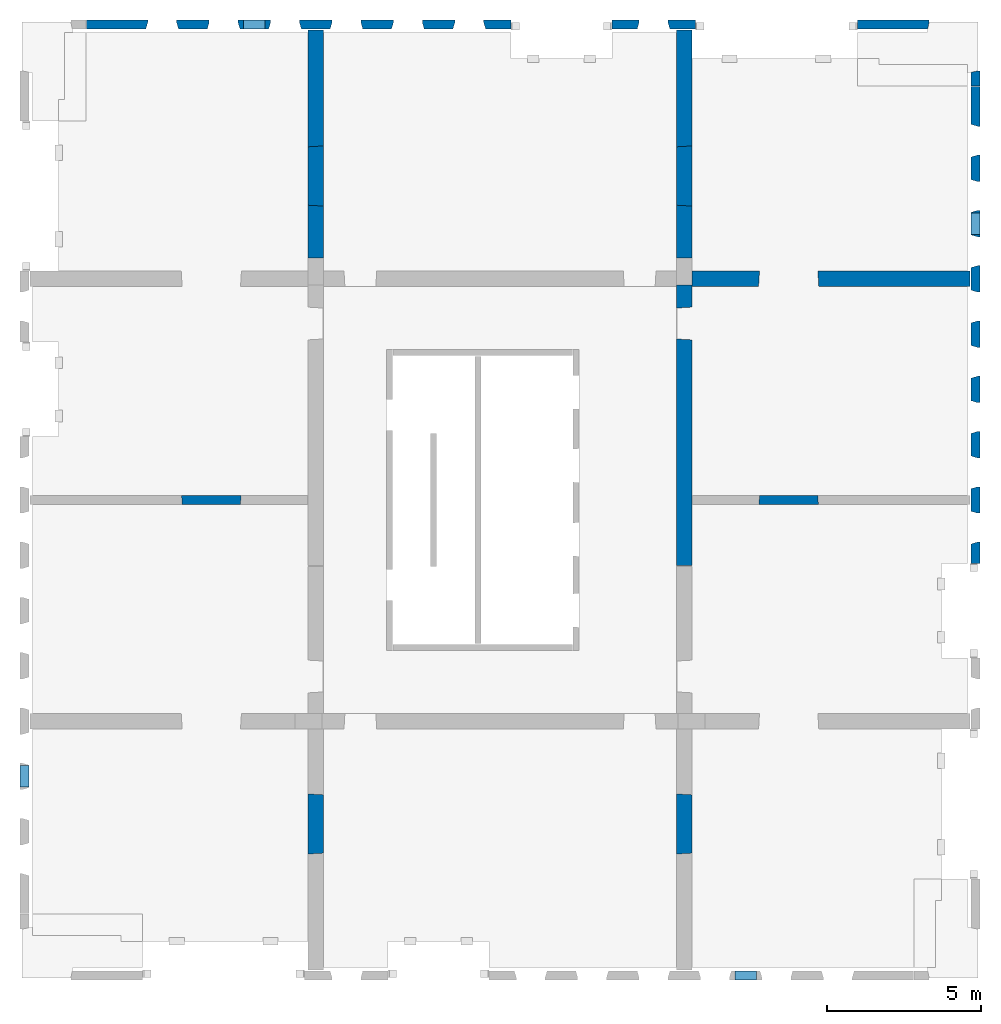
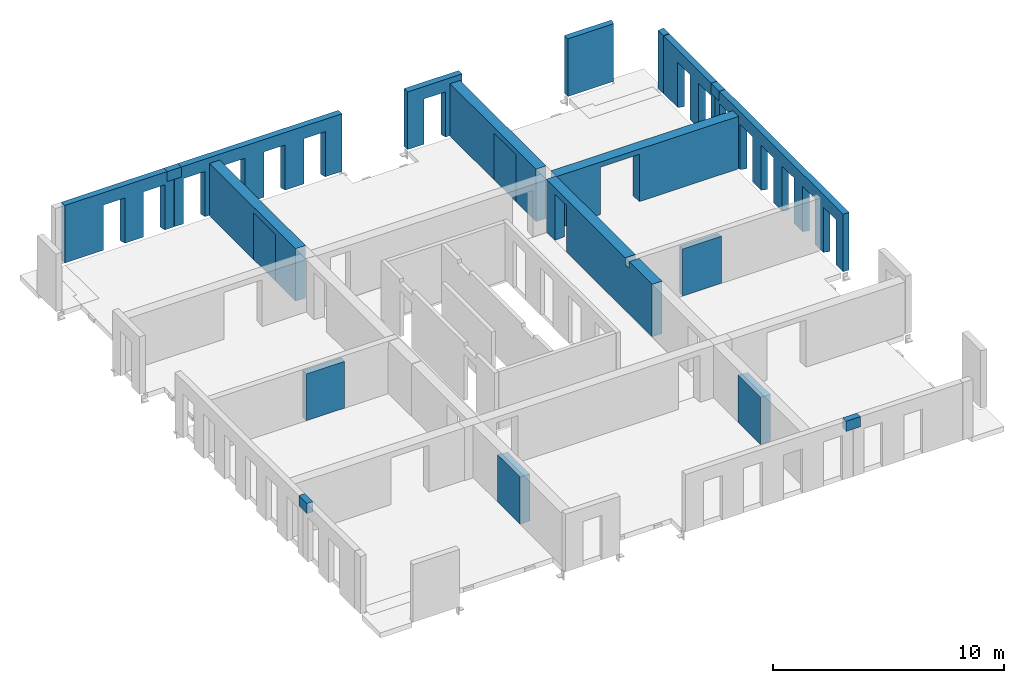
# One storey, part 4 of 4: 21 walls, 26 openings.
"""IFC2X3 building model written with IfcOpenShell, lengths in millimetres."""

import ifcopenshell
import ifcopenshell.guid

model = None  # the IFC model being written
_history = None  # IfcOwnerHistory: only IFC2X3 demands one
_inside = {}  # id of a spatial element -> (the spatial element, [elements in it])
_under = {}  # id of a project, library or spatial element -> (it, [spatial elements below it])
_declared = {}  # id of a project -> (the project, [libraries it declares])
_typed = {}  # id of a type object -> (the type object, [elements of that type])
_made_of = {}  # id of a material, layer set ... -> (it, [elements and type objects made of it])


def new_model(schema):
    """Start an empty IFC model of exactly this schema.

    Asked for "IFC4X3", IfcOpenShell would pick the latest addendum, in which some entities
    have other attributes; the version numbers below select the first issue.
    IFC2X3 requires an IfcOwnerHistory on every rooted entity: one is made here for all.
    """
    global model, _history
    if schema == "IFC4X3":
        model = ifcopenshell.file(schema_version=(4, 3, 0, 0))
    else:
        model = ifcopenshell.file(schema=schema)
    _inside.clear()
    _under.clear()
    _declared.clear()
    _typed.clear()
    _made_of.clear()
    _history = None
    if model.schema == "IFC2X3":
        org = make("IfcOrganization", Name="unknown")
        user = make(
            "IfcPersonAndOrganization",
            ThePerson=make("IfcPerson", FamilyName="unknown"),
            TheOrganization=org,
        )
        app = make(
            "IfcApplication",
            ApplicationDeveloper=org,
            Version="unknown",
            ApplicationFullName="unknown",
            ApplicationIdentifier="unknown",
        )
        _history = make(
            "IfcOwnerHistory",
            OwningUser=user,
            OwningApplication=app,
            ChangeAction="ADDED",
            CreationDate=0,
        )
    return model


def make(cls, **values):
    """One entity of the class cls with the attributes given. An attribute that is None is left unset."""
    return model.create_entity(
        cls, **{name: value for name, value in values.items() if value is not None}
    )


def entity(cls, *values):
    """Any entity or typed value of the class cls, its attributes in the order of the schema. None: left unset."""
    e = model.create_entity(cls)
    for i, value in enumerate(values):
        if value is not None:
            e[i] = value
    return e


def rooted(cls, **values):
    """An entity with a GlobalId (a new one), such as an element, a storey or a relation."""
    return make(cls, GlobalId=ifcopenshell.guid.new(), OwnerHistory=_history, **values)


def si_unit(unit_type, name, prefix=None):
    """IfcSIUnit, for example si_unit("LENGTHUNIT", "METRE", prefix="MILLI")."""
    return make("IfcSIUnit", UnitType=unit_type, Prefix=prefix, Name=name)


def converted_unit(unit_type, name, factor, base, dimensions=None, offset=None):
    """IfcConversionBasedUnit, such as the inch: factor (a typed value) times the base unit."""
    return make(
        "IfcConversionBasedUnit"
        if offset is None
        else "IfcConversionBasedUnitWithOffset",
        ConversionOffset=offset,
        Dimensions=None
        if dimensions is None
        else entity("IfcDimensionalExponents", *dimensions),
        UnitType=unit_type,
        Name=name,
        ConversionFactor=make(
            "IfcMeasureWithUnit", ValueComponent=factor, UnitComponent=base
        ),
    )


def derived_unit(unit_type, elements):
    """IfcDerivedUnit: a product of units, each with its exponent."""
    return make(
        "IfcDerivedUnit",
        Elements=[
            make("IfcDerivedUnitElement", Unit=unit, Exponent=power)
            for unit, power in elements
        ],
        UnitType=unit_type,
    )


def assignment(units):
    """IfcUnitAssignment: the units of a project."""
    return None if units is None else make("IfcUnitAssignment", Units=units)


def point(xyz):
    """IfcCartesianPoint."""
    return None if xyz is None else make("IfcCartesianPoint", Coordinates=xyz)


def direction(xyz):
    """IfcDirection."""
    return None if xyz is None else make("IfcDirection", DirectionRatios=xyz)


def frame(location, z_axis=None, x_axis=None):
    """IfcAxis2Placement3D, a coordinate frame: its origin and axes. An axis left out is left unset."""
    return make(
        "IfcAxis2Placement3D",
        Location=point(location),
        Axis=direction(z_axis),
        RefDirection=direction(x_axis),
    )


def frame_2d(location, x_axis=None):
    """IfcAxis2Placement2D, a coordinate frame in the plane: its origin and x axis."""
    return make(
        "IfcAxis2Placement2D", Location=point(location), RefDirection=direction(x_axis)
    )


def origin():
    """The frame at (0, 0, 0) with its axes left unset."""
    return frame((0.0, 0.0, 0.0))


def place(relative_to, where):
    """IfcLocalPlacement: puts the frame where relative to a parent placement (None: the world)."""
    return make(
        "IfcLocalPlacement", PlacementRelTo=relative_to, RelativePlacement=where
    )


def context(
    kind, dimensions, precision=None, world=None, true_north=None, identifier=None
):
    """IfcGeometricRepresentationContext, for example the 3D "Model" context."""
    return make(
        "IfcGeometricRepresentationContext",
        ContextIdentifier=identifier,
        ContextType=kind,
        CoordinateSpaceDimension=dimensions,
        Precision=precision,
        WorldCoordinateSystem=world,
        TrueNorth=true_north,
    )


def subcontext(parent, identifier, kind, view, scale=None):
    """IfcGeometricRepresentationSubContext, for example "Body" below "Model"."""
    return make(
        "IfcGeometricRepresentationSubContext",
        ContextIdentifier=identifier,
        ContextType=kind,
        ParentContext=parent,
        TargetScale=scale,
        TargetView=view,
    )


def project(units=None, contexts=None):
    """IfcProject with its units and contexts."""
    return rooted(
        "IfcProject",
        Name="project",
        RepresentationContexts=contexts,
        UnitsInContext=assignment(units),
    )


def spatial(cls, under=None, at=None, **own):
    """A site, building, storey or space (cls), placed at a placement, below another one or the project."""
    s = rooted(cls, ObjectPlacement=at, **own)
    if under is not None:
        _under.setdefault(under.id(), (under, []))[1].append(s)
    return s


def profile(cls, at=None, kind="AREA", **sizes):
    """A parametric profile (cls). Its sizes go by their IFC names, for example OverallWidth=200.0."""
    return make(cls, ProfileType=kind, Position=at, **sizes)


def rectangle(**sizes):
    """IfcRectangleProfileDef."""
    return profile("IfcRectangleProfileDef", **sizes)


def extrude(swept, where, along, depth):
    """IfcExtrudedAreaSolid: the profile swept, set in the frame where, extruded along a direction by depth."""
    return make(
        "IfcExtrudedAreaSolid",
        SweptArea=swept,
        Position=where,
        ExtrudedDirection=direction(along),
        Depth=depth,
    )


def faces_of(points, faces, orient=None, outer=None):
    """IfcFace entities. A face is a list of loops; a loop is a list of indices into points, from 0.

    orient and outer hold one flag for each loop. By default every Orientation is true, the
    first loop of a face is its IfcFaceOuterBound and the others are IfcFaceBound.
    """
    made = []
    for i, loops in enumerate(faces):
        bounds = []
        for j, loop in enumerate(loops):
            is_outer = j == 0 if outer is None else outer[i][j]
            bounds.append(
                make(
                    "IfcFaceOuterBound" if is_outer else "IfcFaceBound",
                    Bound=make("IfcPolyLoop", Polygon=[points[k] for k in loop]),
                    Orientation=True if orient is None else orient[i][j],
                )
            )
        made.append(make("IfcFace", Bounds=bounds))
    return made


def faceted_brep(points, faces, orient=None, outer=None, voids=None):
    """IfcFacetedBrep: a solid bounded by flat faces; with voids (closed shells), ...WithVoids."""
    shared = [point(p) for p in points]
    hull = make("IfcClosedShell", CfsFaces=faces_of(shared, faces, orient, outer))
    if voids is None:
        return make("IfcFacetedBrep", Outer=hull)
    return make(
        "IfcFacetedBrepWithVoids",
        Outer=hull,
        Voids=[
            make(cls, CfsFaces=faces_of(shared, fs, o, b)) for cls, fs, o, b in voids
        ],
    )


def shape(context_of_items, identifier, shape_type, items):
    """IfcShapeRepresentation: the items that make up one representation, for example the "Body"."""
    return make(
        "IfcShapeRepresentation",
        ContextOfItems=context_of_items,
        RepresentationIdentifier=identifier,
        RepresentationType=shape_type,
        Items=items,
    )


def material(Name=None, Category=None):
    """IfcMaterial."""
    return make("IfcMaterial", Name=Name, Category=Category)


def layer(
    of_material, thickness, ventilated=None, Name=None, Category=None, Priority=None
):
    """IfcMaterialLayer: one layer of a wall or slab, of a material (None: an air gap)."""
    return make(
        "IfcMaterialLayer",
        Material=of_material,
        LayerThickness=thickness,
        IsVentilated=ventilated,
        Name=Name,
        Category=Category,
        Priority=Priority,
    )


def layer_set(layers, Name=None):
    """IfcMaterialLayerSet."""
    return make("IfcMaterialLayerSet", MaterialLayers=layers, LayerSetName=Name)


def layer_usage(for_layer_set, set_direction, sense, offset, extent=None):
    """IfcMaterialLayerSetUsage: how a layer set lies in its element."""
    return make(
        "IfcMaterialLayerSetUsage",
        ForLayerSet=for_layer_set,
        LayerSetDirection=set_direction,
        DirectionSense=sense,
        OffsetFromReferenceLine=offset,
        ReferenceExtent=extent,
    )


def made_of(thing, what):
    """Note that an element or type object is made of a material, layer set ...; save() writes the relation."""
    if what is not None:
        _made_of.setdefault(what.id(), (what, []))[1].append(thing)
    return thing


def type_object(cls, material=None, **own):
    """A type object (cls), such as IfcWallType, which elements share."""
    return made_of(rooted(cls, **own), material)


def element(
    cls,
    number,
    at=None,
    inside=None,
    cuts=None,
    type_object=None,
    material=None,
    context=None,
    identifier="Body",
    shape_type=None,
    held_by="IfcProductDefinitionShape",
    body=None,
    shapes=None,
    **own,
):
    """One element of the class cls, such as IfcWall. Its Tag is "e" and its number.

    at: its placement. inside: the storey or other place that contains it. cuts: it is an
    opening in that element (IfcRelVoidsElement). A single representation is given by context,
    identifier, shape_type and body (its items); several are given by shapes. held_by: the class
    of the entity that holds the representations. save() writes the other relations.
    """
    e = rooted(cls, Tag="e%d" % number, ObjectPlacement=at, **own)
    if body is not None:
        shapes = [shape(context, identifier, shape_type, body)]
    if shapes is not None:
        e.Representation = make(held_by, Representations=shapes)
    if inside is not None:
        _inside.setdefault(inside.id(), (inside, []))[1].append(e)
    if cuts is not None:
        rooted(
            "IfcRelVoidsElement", RelatingBuildingElement=cuts, RelatedOpeningElement=e
        )
    if type_object is not None:
        _typed.setdefault(type_object.id(), (type_object, []))[1].append(e)
    return made_of(e, material)


def aggregate(whole, parts):
    """IfcRelAggregates: a whole, such as a stair, and the parts it consists of."""
    return rooted("IfcRelAggregates", RelatingObject=whole, RelatedObjects=parts)


def save(model, path):
    """Write the relations noted so far, then the file.

    IfcRelAggregates (storeys below a building ...), IfcRelContainedInSpatialStructure (elements
    in a storey), IfcRelDefinesByType, IfcRelAssociatesMaterial and IfcRelDeclares: one each for
    every whole, place, type object, material and project.
    """
    for whole, parts in _under.values():
        aggregate(whole, parts)
    for where, things in _inside.values():
        rooted(
            "IfcRelContainedInSpatialStructure",
            RelatedElements=things,
            RelatingStructure=where,
        )
    for kind, things in _typed.values():
        rooted("IfcRelDefinesByType", RelatedObjects=things, RelatingType=kind)
    for what, things in _made_of.values():
        rooted("IfcRelAssociatesMaterial", RelatedObjects=things, RelatingMaterial=what)
    for by, libraries in _declared.values():
        rooted("IfcRelDeclares", RelatingContext=by, RelatedDefinitions=libraries)
    model.write(path)


model = new_model("IFC2X3")

# Units and contexts
model_context = context("Model", 3, precision=0.01, world=origin(), true_north=direction((6.12303176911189e-17, 1.0)))
body_context = subcontext(model_context, "Body", "Model", "MODEL_VIEW")
ifc_project = project(units=[si_unit("LENGTHUNIT", "METRE", prefix="MILLI"), si_unit("AREAUNIT", "SQUARE_METRE"), si_unit("VOLUMEUNIT", "CUBIC_METRE"), converted_unit("PLANEANGLEUNIT", "DEGREE", entity("IfcRatioMeasure", 0.0174532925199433), si_unit("PLANEANGLEUNIT", "RADIAN"), dimensions=[0, 0, 0, 0, 0, 0, 0]), si_unit("MASSUNIT", "GRAM", prefix="KILO"), derived_unit("MASSDENSITYUNIT", [(si_unit("MASSUNIT", "GRAM", prefix="KILO"), 1), (si_unit("LENGTHUNIT", "METRE"), -3)]), si_unit("TIMEUNIT", "SECOND"), si_unit("FREQUENCYUNIT", "HERTZ"), si_unit("THERMODYNAMICTEMPERATUREUNIT", "DEGREE_CELSIUS"), derived_unit("THERMALTRANSMITTANCEUNIT", [(si_unit("MASSUNIT", "GRAM", prefix="KILO"), 1), (si_unit("THERMODYNAMICTEMPERATUREUNIT", "KELVIN"), -1), (si_unit("TIMEUNIT", "SECOND"), -3)]), derived_unit("VOLUMETRICFLOWRATEUNIT", [(si_unit("LENGTHUNIT", "METRE"), 3), (si_unit("TIMEUNIT", "SECOND"), -1)]), si_unit("ELECTRICCURRENTUNIT", "AMPERE"), si_unit("ELECTRICVOLTAGEUNIT", "VOLT"), si_unit("POWERUNIT", "WATT"), si_unit("FORCEUNIT", "NEWTON", prefix="KILO"), si_unit("ILLUMINANCEUNIT", "LUX"), si_unit("LUMINOUSFLUXUNIT", "LUMEN"), si_unit("LUMINOUSINTENSITYUNIT", "CANDELA"), derived_unit("USERDEFINED", [(si_unit("MASSUNIT", "GRAM", prefix="KILO"), -1), (si_unit("LENGTHUNIT", "METRE"), -2), (si_unit("TIMEUNIT", "SECOND"), 3), (si_unit("LUMINOUSFLUXUNIT", "LUMEN"), 1)]), derived_unit("LINEARVELOCITYUNIT", [(si_unit("LENGTHUNIT", "METRE"), 1), (si_unit("TIMEUNIT", "SECOND"), -1)]), si_unit("PRESSUREUNIT", "PASCAL"), derived_unit("USERDEFINED", [(si_unit("LENGTHUNIT", "METRE"), -2), (si_unit("MASSUNIT", "GRAM", prefix="KILO"), 1), (si_unit("TIMEUNIT", "SECOND"), -2)])], contexts=[model_context])

# Site, building, storey
site_placement = place(None, origin())
site = spatial("IfcSite", under=ifc_project, at=site_placement, Name="Default", CompositionType="ELEMENT")
building_placement = place(site_placement, origin())
building = spatial("IfcBuilding", under=site, at=building_placement, Name="niet gebruiken", CompositionType="ELEMENT")
storey_placement = place(building_placement, frame((0.0, 0.0, 30240.0)))
storey = spatial("IfcBuildingStorey", under=building, at=storey_placement, Name="09 negende verdieping", CompositionType="ELEMENT", Elevation=30240.0)

# Walls
ifc_material_1 = material(Name="NLRS_f2_beton ihwg")
ifc_layer_1 = layer(ifc_material_1, 300.0)
ifc_layer_set_1 = layer_set([ifc_layer_1], Name="Basic Wall:NLRS_21.21_WA_beton ihwg d=300_gen")
ifc_layer_usage_1 = layer_usage(ifc_layer_set_1, "AXIS2", "NEGATIVE", 150.0)
wall_type_1 = type_object("IfcWallType", Name="Basic Wall:NLRS_21.21_WA_beton ihwg d=300_gen", PredefinedType="STANDARD", material=ifc_layer_set_1)
wall_1_placement = place(storey_placement, frame((133395.0, 32980.0, 2455.0)))
element("IfcWallStandardCase", 1, at=wall_1_placement, inside=storey, type_object=wall_type_1, material=ifc_layer_usage_1, Name="Basic Wall:NLRS_21.21_WA_beton ihwg d=300_gen", ObjectType="Basic Wall:NLRS_21.21_WA_beton ihwg d=300_gen", context=body_context, shape_type="SweptSolid", body=[
    extrude(rectangle(XDim=710.000000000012, YDim=300.000000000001, at=frame_2d((355.000000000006, 0.0), x_axis=(-1.0, 0.0))), origin(), (0.0, 0.0, 1.0), 535.0),
])
ifc_layer_usage_2 = layer_usage(ifc_layer_set_1, "AXIS2", "NEGATIVE", 150.0)
wall_2_placement = place(storey_placement, frame((150105.0, 2020.0, 2455.0), z_axis=(0.0, 0.0, 1.0), x_axis=(-1.0, 0.0, 0.0)))
element("IfcWallStandardCase", 2, at=wall_2_placement, inside=storey, type_object=wall_type_1, material=ifc_layer_usage_2, Name="Basic Wall:NLRS_21.21_WA_beton ihwg d=300_gen", ObjectType="Basic Wall:NLRS_21.21_WA_beton ihwg d=300_gen", context=body_context, shape_type="SweptSolid", body=[
    extrude(rectangle(XDim=710.000000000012, YDim=300.0, at=frame_2d((355.000000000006, -1.4210854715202e-14), x_axis=(-1.0, 0.0))), origin(), (0.0, 0.0, 1.0), 535.0),
])
ifc_layer_usage_3 = layer_usage(ifc_layer_set_1, "AXIS2", "NEGATIVE", 150.0)
wall_3_placement = place(storey_placement, frame((126270.0, 8155.0, 2455.0), z_axis=(0.0, 0.0, 1.0), x_axis=(0.0, 1.0, 0.0)))
element("IfcWallStandardCase", 3, at=wall_3_placement, inside=storey, type_object=wall_type_1, material=ifc_layer_usage_3, Name="Basic Wall:NLRS_21.21_WA_beton ihwg d=300_gen", ObjectType="Basic Wall:NLRS_21.21_WA_beton ihwg d=300_gen", context=body_context, shape_type="SweptSolid", body=[
    extrude(rectangle(XDim=700.0, YDim=300.000000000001, at=frame_2d((350.0, 0.0), x_axis=(-1.0, 0.0))), origin(), (0.0, 0.0, 1.0), 535.0),
])
ifc_layer_usage_4 = layer_usage(ifc_layer_set_1, "AXIS2", "NEGATIVE", 150.0)
wall_4_placement = place(storey_placement, frame((157230.0, 26845.0, 2455.0), z_axis=(0.0, 0.0, 1.0), x_axis=(0.0, -1.0, 0.0)))
element("IfcWallStandardCase", 4, at=wall_4_placement, inside=storey, type_object=wall_type_1, material=ifc_layer_usage_4, Name="Basic Wall:NLRS_21.21_WA_beton ihwg d=300_gen", ObjectType="Basic Wall:NLRS_21.21_WA_beton ihwg d=300_gen", context=body_context, shape_type="SweptSolid", body=[
    extrude(rectangle(XDim=700.000000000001, YDim=300.000000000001, at=frame_2d((350.000000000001, 9.80548975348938e-13), x_axis=(-1.0, 0.0))), origin(), (0.0, 0.0, 1.0), 535.0),
])

# Wall, opening
ifc_material_2 = material(Name="NLRS_f2_beton prefab")
ifc_layer_2 = layer(ifc_material_2, 500.0)
ifc_layer_set_2 = layer_set([ifc_layer_2], Name="Basic Wall:NLRS_22.21_WA_beton prefab d=500_gen")
ifc_layer_usage_5 = layer_usage(ifc_layer_set_2, "AXIS2", "NEGATIVE", 250.0)
wall_type_2 = type_object("IfcWallType", Name="Basic Wall:NLRS_22.21_WA_beton prefab d=500_gen", PredefinedType="STANDARD", material=ifc_layer_set_2)
wall_5_placement = place(storey_placement, frame((157060.0, 24700.0, -70.0), z_axis=(0.0, 0.0, 1.0), x_axis=(-1.0, 0.0, 0.0)))
wall_5 = element("IfcWallStandardCase", 5, at=wall_5_placement, inside=storey, type_object=wall_type_2, material=ifc_layer_usage_5, Name="Basic Wall:NLRS_22.21_WA_beton prefab d=500_gen", ObjectType="Basic Wall:NLRS_22.21_WA_beton prefab d=500_gen", context=body_context, shape_type="SweptSolid", body=[
    extrude(rectangle(XDim=9060.00000000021, YDim=499.999999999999, at=frame_2d((4530.00000000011, -1.37845290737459e-12), x_axis=(-1.0, 0.0))), origin(), (0.0, 0.0, 1.0), 2770.0),
])
opening_1_placement = place(wall_5_placement, frame((6890.0, 250.0, 0.0)))
element("IfcOpeningElement", 6, at=opening_1_placement, cuts=wall_5, Name="Basic Wall:NLRS_22.21_WA_beton prefab d=500_gen", ObjectType="Opening", context=body_context, shape_type="Brep", body=[
    faceted_brep([(-30.0, -500.0, 2470.0), (-1930.0, -500.0, 2470.0), (-1930.0, -500.0, 0.0), (-30.0, -500.0, 0.0), (0.0, 0.0, 2500.0), (0.0, 0.0, 0.0), (-1960.0, 0.0, 0.0), (-1960.0, 0.0, 2500.0)], [[[0, 1, 2, 3]], [[4, 5, 6, 7]], [[4, 7, 1, 0]], [[7, 6, 2, 1]], [[6, 5, 3, 2]], [[5, 4, 0, 3]]]),
])

ifc_layer_usage_6 = layer_usage(ifc_layer_set_2, "AXIS2", "NEGATIVE", 250.0)
wall_6_placement = place(storey_placement, frame((135750.0, 25380.0, -70.0), z_axis=(0.0, 0.0, 1.0), x_axis=(0.0, 1.0, 0.0)))
wall_6 = element("IfcWallStandardCase", 7, at=wall_6_placement, inside=storey, type_object=wall_type_2, material=ifc_layer_usage_6, Name="Basic Wall:NLRS_22.21_WA_beton prefab d=500_gen", ObjectType="Basic Wall:NLRS_22.21_WA_beton prefab d=500_gen", context=body_context, shape_type="SweptSolid", body=[
    extrude(rectangle(XDim=7429.99999999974, YDim=499.99999999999, at=frame_2d((3714.99999999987, -3.65218966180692e-12), x_axis=(-1.0, 0.0))), origin(), (0.0, 0.0, 1.0), 2770.0),
])
opening_2_placement = place(wall_6_placement, frame((1690.0, 250.0, 0.0)))
element("IfcOpeningElement", 8, at=opening_2_placement, cuts=wall_6, Name="Basic Wall:NLRS_22.21_WA_beton prefab d=500_gen", ObjectType="Opening", context=body_context, shape_type="Brep", body=[
    faceted_brep([(1930.0, 0.0, 2470.0), (1930.0, 0.0, 0.0), (30.0, 0.0, 0.0), (30.0, 0.0, 2470.0), (1960.0, -500.0, 2500.0), (0.0, -500.0, 2500.0), (0.0, -500.0, 0.0), (1960.0, -500.0, 0.0)], [[[0, 1, 2, 3]], [[4, 5, 6, 7]], [[4, 0, 3, 5]], [[5, 3, 2, 6]], [[6, 2, 1, 7]], [[7, 1, 0, 4]]]),
])

ifc_layer_usage_7 = layer_usage(ifc_layer_set_2, "AXIS2", "NEGATIVE", 250.0)
wall_7_placement = place(storey_placement, frame((147750.0, 25380.0, -70.0), z_axis=(0.0, 0.0, 1.0), x_axis=(0.0, 1.0, 0.0)))
wall_7 = element("IfcWallStandardCase", 9, at=wall_7_placement, inside=storey, type_object=wall_type_2, material=ifc_layer_usage_7, Name="Basic Wall:NLRS_22.21_WA_beton prefab d=500_gen", ObjectType="Basic Wall:NLRS_22.21_WA_beton prefab d=500_gen", context=body_context, shape_type="SweptSolid", body=[
    extrude(rectangle(XDim=7429.99999999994, YDim=499.99999999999, at=frame_2d((3714.99999999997, 1.70530256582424e-12), x_axis=(-1.0, 0.0))), origin(), (0.0, 0.0, 1.0), 2770.0),
])
opening_3_placement = place(wall_7_placement, frame((1690.0, 250.0, 0.0)))
element("IfcOpeningElement", 10, at=opening_3_placement, cuts=wall_7, Name="Basic Wall:NLRS_22.21_WA_beton prefab d=500_gen", ObjectType="Opening", context=body_context, shape_type="Brep", body=[
    faceted_brep([(1930.0, 0.0, 2470.0), (1930.0, 0.0, 0.0), (30.0, 0.0, 0.0), (30.0, 0.0, 2470.0), (1960.0, -500.0, 2500.0), (0.0, -500.0, 2500.0), (0.0, -500.0, 0.0), (1960.0, -500.0, 0.0)], [[[0, 1, 2, 3]], [[4, 5, 6, 7]], [[4, 0, 3, 5]], [[5, 3, 2, 6]], [[6, 2, 1, 7]], [[7, 1, 0, 4]]]),
])

# Wall, openings
ifc_layer_usage_8 = layer_usage(ifc_layer_set_2, "AXIS2", "NEGATIVE", 250.0)
wall_8_placement = place(storey_placement, frame((147750.0, 24500.0, -70.0), z_axis=(0.0, 0.0, 1.0), x_axis=(0.0, -1.0, 0.0)))
wall_8 = element("IfcWallStandardCase", 11, at=wall_8_placement, inside=storey, type_object=wall_type_2, material=ifc_layer_usage_8, Name="Basic Wall:NLRS_22.21_WA_beton prefab d=500_gen", ObjectType="Basic Wall:NLRS_22.21_WA_beton prefab d=500_gen", context=body_context, shape_type="SweptSolid", body=[
    extrude(rectangle(XDim=9140.00000000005, YDim=499.99999999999, at=frame_2d((4570.00000000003, -1.4210854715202e-14), x_axis=(-1.0, 0.0))), origin(), (0.0, 0.0, 1.0), 2770.00000000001),
])
opening_4_placement = place(wall_8_placement, frame((1786.0, -250.0, 0.0)))
element("IfcOpeningElement", 12, at=opening_4_placement, cuts=wall_8, Name="Basic Wall:NLRS_22.21_WA_beton prefab d=500_gen", ObjectType="Opening", context=body_context, shape_type="Brep", body=[
    faceted_brep([(-1066.0, 500.0, 2478.0), (-1066.0, 500.0, 0.0), (-1036.0, 0.0, 0.0), (-1036.0, 0.0, 2448.0), (0.0, 500.0, 0.0), (-30.0, 0.0, 0.0), (-30.0, 0.0, 2448.0), (0.0, 500.0, 2478.0)], [[[0, 1, 2, 3]], [[1, 4, 5, 2]], [[6, 3, 2, 5]], [[7, 4, 1, 0]], [[7, 0, 3, 6]], [[4, 7, 6, 5]]]),
])
opening_5_placement = place(wall_8_placement, origin())
element("IfcOpeningElement", 13, at=opening_5_placement, cuts=wall_8, Name="Basic Wall:NLRS_22.21_WA_beton prefab d=500_gen", ObjectType="Opening", context=body_context, shape_type="SweptSolid", body=[
    extrude(rectangle(XDim=350.000000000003, YDim=339.999999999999, at=frame_2d((-1.08002495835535e-12, 2.1600499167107e-12), x_axis=(0.0, 1.0))), frame((7000.0, 250.0, 2595.0), z_axis=(0.0, -1.0, 0.0), x_axis=(-1.0, 0.0, 0.0)), (0.0, 0.0, 1.0), 500.0),
])

# Wall, opening
ifc_layer_3 = layer(ifc_material_2, 300.0)
ifc_layer_set_3 = layer_set([ifc_layer_3], Name="Basic Wall:NLRS_21.21_WA_beton prefab d=300/320_gen")
ifc_layer_usage_9 = layer_usage(ifc_layer_set_3, "AXIS2", "NEGATIVE", 150.0)
wall_type_3 = type_object("IfcWallType", Name="Basic Wall:NLRS_21.21_WA_beton prefab d=300/320_gen", PredefinedType="STANDARD", material=ifc_layer_set_3)
wall_9_placement = place(storey_placement, frame((145390.0, 32980.0, -50.0)))
wall_9 = element("IfcWallStandardCase", 14, at=wall_9_placement, inside=storey, type_object=wall_type_3, material=ifc_layer_usage_9, Name="Basic Wall:NLRS_21.21_WA_beton prefab d=300/320_gen", ObjectType="Basic Wall:NLRS_21.21_WA_beton prefab d=300/320_gen", context=body_context, shape_type="SweptSolid", body=[
    extrude(rectangle(XDim=2720.00000000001, YDim=300.000000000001, at=frame_2d((1360.0, -4.54747350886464e-13), x_axis=(-1.0, 0.0))), origin(), (0.0, 0.0, 1.0), 3040.0),
])
opening_6_placement = place(wall_9_placement, frame((825.0, -150.0, -20.0)))
element("IfcOpeningElement", 15, at=opening_6_placement, cuts=wall_9, Name="Basic Wall:NLRS_21.21_WA_beton prefab d=300/320_gen", ObjectType="Opening", context=body_context, shape_type="Brep", body=[
    faceted_brep([(0.0, 0.0, 2405.0), (0.0, 0.0, 0.0), (1070.0, 0.0, 0.0), (1070.0, 0.0, 2405.0), (1005.0, 219.0, 2370.0), (65.0, 219.0, 2370.0), (1005.0, 219.0, 0.0), (65.0, 219.0, 0.0), (65.0, 300.0, 0.0), (1005.0, 300.0, 0.0), (65.0, 300.0, 2370.0), (1005.0, 300.0, 2370.0)], [[[0, 1, 2, 3]], [[3, 4, 5, 0]], [[2, 6, 4, 3]], [[1, 7, 8, 9, 6, 2]], [[0, 5, 7, 1]], [[10, 11, 9, 8]], [[10, 5, 4, 11]], [[11, 4, 6, 9]], [[8, 7, 5, 10]]]),
])

# Wall, openings
ifc_layer_usage_10 = layer_usage(ifc_layer_set_3, "AXIS2", "NEGATIVE", 150.0)
wall_10_placement = place(storey_placement, frame((128290.0, 32980.0, -50.0)))
wall_10 = element("IfcWallStandardCase", 16, at=wall_10_placement, inside=storey, type_object=wall_type_3, material=ifc_layer_usage_10, Name="Basic Wall:NLRS_21.21_WA_beton prefab d=300/320_gen", ObjectType="Basic Wall:NLRS_21.21_WA_beton prefab d=300/320_gen", context=body_context, shape_type="SweptSolid", body=[
    extrude(rectangle(XDim=5450.00000000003, YDim=300.000000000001, at=frame_2d((2725.00000000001, 8.81072992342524e-13), x_axis=(-1.0, 0.0))), origin(), (0.0, 0.0, 1.0), 3040.0),
])
opening_7_placement = place(wall_10_placement, frame((3925.0, -150.0, -20.0)))
element("IfcOpeningElement", 17, at=opening_7_placement, cuts=wall_10, Name="Basic Wall:NLRS_21.21_WA_beton prefab d=300/320_gen", ObjectType="Opening", context=body_context, shape_type="Brep", body=[
    faceted_brep([(1070.0, 0.0, 2405.0), (0.0, 0.0, 2405.0), (0.0, 0.0, 0.0), (1070.0, 0.0, 0.0), (1005.0, 219.0, 2370.0), (65.0, 219.0, 2370.0), (65.0, 219.0, 0.0), (65.0, 300.0, 0.0), (1005.0, 300.0, 0.0), (1005.0, 219.0, 0.0), (1005.0, 300.0, 2370.0), (65.0, 300.0, 2370.0)], [[[0, 1, 2, 3]], [[1, 0, 4, 5]], [[2, 1, 5, 6]], [[3, 2, 6, 7, 8, 9]], [[0, 3, 9, 4]], [[10, 8, 7, 11]], [[10, 11, 5, 4]], [[11, 7, 6, 5]], [[8, 10, 4, 9]]]),
])
opening_8_placement = place(wall_10_placement, frame((1925.0, -150.0, -20.0)))
element("IfcOpeningElement", 18, at=opening_8_placement, cuts=wall_10, Name="Basic Wall:NLRS_21.21_WA_beton prefab d=300/320_gen", ObjectType="Opening", context=body_context, shape_type="Brep", body=[
    faceted_brep([(1070.0, 0.0, 2405.0), (0.0, 0.0, 2405.0), (0.0, 0.0, 0.0), (1070.0, 0.0, 0.0), (1005.0, 219.0, 2370.0), (65.0, 219.0, 2370.0), (65.0, 219.0, 0.0), (65.0, 300.0, 0.0), (1005.0, 300.0, 0.0), (1005.0, 219.0, 0.0), (1005.0, 300.0, 2370.0), (65.0, 300.0, 2370.0)], [[[0, 1, 2, 3]], [[1, 0, 4, 5]], [[2, 1, 5, 6]], [[3, 2, 6, 7, 8, 9]], [[0, 3, 9, 4]], [[10, 8, 7, 11]], [[10, 11, 5, 4]], [[11, 7, 6, 5]], [[8, 10, 4, 9]]]),
])
opening_9_placement = place(wall_10_placement, origin())
element("IfcOpeningElement", 19, at=opening_9_placement, cuts=wall_10, Name="Basic Wall:NLRS_21.21_WA_beton prefab d=300/320_gen", ObjectType="Opening", context=body_context, shape_type="SweptSolid", body=[
    extrude(rectangle(XDim=534.999999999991, YDim=345.000000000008, at=frame_2d((4.32009983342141e-12, 0.0), x_axis=(1.0, 0.0))), frame((5277.50000000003, 150.0, 2772.5), z_axis=(0.0, -1.0, 0.0), x_axis=(0.0, 0.0, 1.0)), (0.0, 0.0, 1.0), 300.0),
])

# Wall, opening
ifc_layer_usage_11 = layer_usage(ifc_layer_set_3, "AXIS2", "NEGATIVE", 150.0)
wall_11_placement = place(storey_placement, frame((153390.0, 32980.0, -50.0)))
wall_11 = element("IfcWallStandardCase", 20, at=wall_11_placement, inside=storey, type_object=wall_type_3, material=ifc_layer_usage_11, Name="Basic Wall:NLRS_21.21_WA_beton prefab d=300/320_gen", ObjectType="Basic Wall:NLRS_21.21_WA_beton prefab d=300/320_gen", context=body_context, shape_type="SweptSolid", body=[
    extrude(rectangle(XDim=2330.00000000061, YDim=300.000000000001, at=frame_2d((1165.00000000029, -1.29318777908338e-12), x_axis=(-1.0, 0.0))), origin(), (0.0, 0.0, 1.0), 3040.0),
])
opening_10_placement = place(wall_11_placement, frame((2265.0, -250.0, 0.0)))
element("IfcOpeningElement", 21, at=opening_10_placement, cuts=wall_11, Name="Basic Wall:NLRS_21.21_WA_beton prefab d=300/320_gen", ObjectType="Opening", context=body_context, shape_type="Brep", body=[
    faceted_brep([(65.0, 0.0, 3040.0), (65.0, 319.0, 3040.0), (0.0, 0.0, 3040.0), (65.0, 0.0, 0.0), (0.0, 0.0, 0.0), (65.0, 319.0, 0.0)], [[[0, 1, 2]], [[3, 4, 5]], [[2, 4, 3, 0]], [[0, 3, 5, 1]], [[1, 5, 4, 2]]]),
])

ifc_layer_usage_12 = layer_usage(ifc_layer_set_3, "AXIS2", "NEGATIVE", 150.0)
wall_12_placement = place(storey_placement, frame((157230.0, 31470.0, -50.0), z_axis=(0.0, 0.0, 1.0), x_axis=(0.0, -1.0, 0.0)))
wall_12 = element("IfcWallStandardCase", 22, at=wall_12_placement, inside=storey, type_object=wall_type_3, material=ifc_layer_usage_12, Name="Basic Wall:NLRS_21.21_WA_beton prefab d=300/320_gen", ObjectType="Basic Wall:NLRS_21.21_WA_beton prefab d=300/320_gen", context=body_context, shape_type="SweptSolid", body=[
    extrude(rectangle(XDim=489.999999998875, YDim=300.000000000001, at=frame_2d((244.999999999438, -7.8159700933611e-13), x_axis=(-1.0, 0.0))), origin(), (0.0, 0.0, 1.0), 3040.0),
])
opening_11_placement = place(wall_12_placement, frame((65.0, -250.0, 0.0)))
element("IfcOpeningElement", 23, at=opening_11_placement, cuts=wall_12, Name="Basic Wall:NLRS_21.21_WA_beton prefab d=300/320_gen", ObjectType="Opening", context=body_context, shape_type="Brep", body=[
    faceted_brep([(-65.0, 0.0, 3040.0), (0.0, 0.0, 3040.0), (-65.0, 319.0, 3040.0), (-65.0, 0.0, 0.0), (-65.0, 319.0, 0.0), (0.0, 0.0, 0.0)], [[[0, 1, 2]], [[3, 4, 5]], [[1, 0, 3, 5]], [[0, 2, 4, 3]], [[2, 1, 5, 4]]]),
])

# Wall, openings
ifc_layer_usage_13 = layer_usage(ifc_layer_set_3, "AXIS2", "NEGATIVE", 150.0)
wall_13_placement = place(storey_placement, frame((133760.0, 32980.0, -50.0)))
wall_13 = element("IfcWallStandardCase", 24, at=wall_13_placement, inside=storey, type_object=wall_type_3, material=ifc_layer_usage_13, Name="Basic Wall:NLRS_21.21_WA_beton prefab d=300/320_gen", ObjectType="Basic Wall:NLRS_21.21_WA_beton prefab d=300/320_gen", context=body_context, shape_type="SweptSolid", body=[
    extrude(rectangle(XDim=8350.00000000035, YDim=300.000000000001, at=frame_2d((4175.00000000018, -1.91846538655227e-12), x_axis=(-1.0, 0.0))), origin(), (0.0, 0.0, 1.0), 3040.0),
])
opening_12_placement = place(wall_13_placement, frame((2455.0, -150.0, -20.0)))
element("IfcOpeningElement", 25, at=opening_12_placement, cuts=wall_13, Name="Basic Wall:NLRS_21.21_WA_beton prefab d=300/320_gen", ObjectType="Opening", context=body_context, shape_type="Brep", body=[
    faceted_brep([(1070.0, 0.0, 2405.0), (0.0, 0.0, 2405.0), (0.0, 0.0, 0.0), (1070.0, 0.0, 0.0), (1005.0, 219.0, 2370.0), (65.0, 219.0, 2370.0), (65.0, 219.0, 0.0), (65.0, 300.0, 0.0), (1005.0, 300.0, 0.0), (1005.0, 219.0, 0.0), (1005.0, 300.0, 2370.0), (65.0, 300.0, 2370.0)], [[[0, 1, 2, 3]], [[1, 0, 4, 5]], [[2, 1, 5, 6]], [[3, 2, 6, 7, 8, 9]], [[0, 3, 9, 4]], [[10, 8, 7, 11]], [[10, 11, 5, 4]], [[11, 7, 6, 5]], [[8, 10, 4, 9]]]),
])
opening_13_placement = place(wall_13_placement, frame((455.0, -150.0, -20.0)))
element("IfcOpeningElement", 26, at=opening_13_placement, cuts=wall_13, Name="Basic Wall:NLRS_21.21_WA_beton prefab d=300/320_gen", ObjectType="Opening", context=body_context, shape_type="Brep", body=[
    faceted_brep([(1070.0, 0.0, 2405.0), (0.0, 0.0, 2405.0), (0.0, 0.0, 0.0), (1070.0, 0.0, 0.0), (1005.0, 219.0, 2370.0), (65.0, 219.0, 2370.0), (65.0, 219.0, 0.0), (65.0, 300.0, 0.0), (1005.0, 300.0, 0.0), (1005.0, 219.0, 0.0), (1005.0, 300.0, 2370.0), (65.0, 300.0, 2370.0)], [[[0, 1, 2, 3]], [[1, 0, 4, 5]], [[2, 1, 5, 6]], [[3, 2, 6, 7, 8, 9]], [[0, 3, 9, 4]], [[10, 8, 7, 11]], [[10, 11, 5, 4]], [[11, 7, 6, 5]], [[8, 10, 4, 9]]]),
])
opening_14_placement = place(wall_13_placement, frame((4455.0, -150.0, -20.0)))
element("IfcOpeningElement", 27, at=opening_14_placement, cuts=wall_13, Name="Basic Wall:NLRS_21.21_WA_beton prefab d=300/320_gen", ObjectType="Opening", context=body_context, shape_type="Brep", body=[
    faceted_brep([(1070.0, 0.0, 2405.0), (0.0, 0.0, 2405.0), (0.0, 0.0, 0.0), (1070.0, 0.0, 0.0), (1005.0, 219.0, 2370.0), (65.0, 219.0, 2370.0), (65.0, 219.0, 0.0), (65.0, 300.0, 0.0), (1005.0, 300.0, 0.0), (1005.0, 219.0, 0.0), (1005.0, 300.0, 2370.0), (65.0, 300.0, 2370.0)], [[[0, 1, 2, 3]], [[1, 0, 4, 5]], [[2, 1, 5, 6]], [[3, 2, 6, 7, 8, 9]], [[0, 3, 9, 4]], [[10, 8, 7, 11]], [[10, 11, 5, 4]], [[11, 7, 6, 5]], [[8, 10, 4, 9]]]),
])
opening_15_placement = place(wall_13_placement, frame((6455.0, -150.0, -20.0)))
element("IfcOpeningElement", 28, at=opening_15_placement, cuts=wall_13, Name="Basic Wall:NLRS_21.21_WA_beton prefab d=300/320_gen", ObjectType="Opening", context=body_context, shape_type="Brep", body=[
    faceted_brep([(1070.0, 0.0, 2405.0), (0.0, 0.0, 2405.0), (0.0, 0.0, 0.0), (1070.0, 0.0, 0.0), (1005.0, 219.0, 2370.0), (65.0, 219.0, 2370.0), (65.0, 219.0, 0.0), (65.0, 300.0, 0.0), (1005.0, 300.0, 0.0), (1005.0, 219.0, 0.0), (1005.0, 300.0, 2370.0), (65.0, 300.0, 2370.0)], [[[0, 1, 2, 3]], [[1, 0, 4, 5]], [[2, 1, 5, 6]], [[3, 2, 6, 7, 8, 9]], [[0, 3, 9, 4]], [[10, 8, 7, 11]], [[10, 11, 5, 4]], [[11, 7, 6, 5]], [[8, 10, 4, 9]]]),
])
opening_16_placement = place(wall_13_placement, origin())
element("IfcOpeningElement", 29, at=opening_16_placement, cuts=wall_13, Name="Basic Wall:NLRS_21.21_WA_beton prefab d=300/320_gen", ObjectType="Opening", context=body_context, shape_type="SweptSolid", body=[
    extrude(rectangle(XDim=534.999999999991, YDim=345.000000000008, at=frame_2d((0.0, 0.0), x_axis=(0.0, 1.0))), frame((172.500000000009, 150.0, 2772.50000000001), z_axis=(0.0, -1.0, 0.0), x_axis=(-1.0, 0.0, 0.0)), (0.0, 0.0, 1.0), 300.0),
])

ifc_layer_usage_14 = layer_usage(ifc_layer_set_3, "AXIS2", "NEGATIVE", 150.0)
wall_14_placement = place(storey_placement, frame((157230.0, 30960.0, -50.0), z_axis=(0.0, 0.0, 1.0), x_axis=(0.0, -1.0, 0.0)))
wall_14 = element("IfcWallStandardCase", 30, at=wall_14_placement, inside=storey, type_object=wall_type_3, material=ifc_layer_usage_14, Name="Basic Wall:NLRS_21.21_WA_beton prefab d=300/320_gen", ObjectType="Basic Wall:NLRS_21.21_WA_beton prefab d=300/320_gen", context=body_context, shape_type="SweptSolid", body=[
    extrude(rectangle(XDim=4460.00000000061, YDim=300.000000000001, at=frame_2d((2230.0000000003, -1.10986775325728e-11), x_axis=(-1.0, 0.0))), origin(), (0.0, 0.0, 1.0), 3039.99999999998),
])
opening_17_placement = place(wall_14_placement, frame((2295.0, -150.0, -20.0)))
element("IfcOpeningElement", 31, at=opening_17_placement, cuts=wall_14, Name="Basic Wall:NLRS_21.21_WA_beton prefab d=300/320_gen", ObjectType="Opening", context=body_context, shape_type="Brep", body=[
    faceted_brep([(-1070.0, 0.0, 2405.0), (-1070.0, 0.0, 0.0), (0.0, 0.0, 0.0), (0.0, 0.0, 2405.0), (-65.0, 219.0, 2370.0), (-1005.0, 219.0, 2370.0), (-65.0, 219.0, 0.0), (-1005.0, 219.0, 0.0), (-1005.0, 300.0, 0.0), (-65.0, 300.0, 0.0), (-1005.0, 300.0, 2370.0), (-65.0, 300.0, 2370.0)], [[[0, 1, 2, 3]], [[3, 4, 5, 0]], [[2, 6, 4, 3]], [[1, 7, 8, 9, 6, 2]], [[0, 5, 7, 1]], [[10, 11, 9, 8]], [[10, 5, 4, 11]], [[11, 4, 6, 9]], [[8, 7, 5, 10]]]),
])
opening_18_placement = place(wall_14_placement, frame((4095.0, -150.0, -20.0)))
element("IfcOpeningElement", 32, at=opening_18_placement, cuts=wall_14, Name="Basic Wall:NLRS_21.21_WA_beton prefab d=300/320_gen", ObjectType="Opening", context=body_context, shape_type="Brep", body=[
    faceted_brep([(-1070.0, 0.0, 2405.0), (-1070.0, 0.0, 0.0), (0.0, 0.0, 0.0), (0.0, 0.0, 2405.0), (-65.0, 219.0, 2370.0), (-1005.0, 219.0, 2370.0), (-65.0, 219.0, 0.0), (-1005.0, 219.0, 0.0), (-1005.0, 300.0, 0.0), (-65.0, 300.0, 0.0), (-1005.0, 300.0, 2370.0), (-65.0, 300.0, 2370.0)], [[[0, 1, 2, 3]], [[3, 4, 5, 0]], [[2, 6, 4, 3]], [[1, 7, 8, 9, 6, 2]], [[0, 5, 7, 1]], [[10, 11, 9, 8]], [[10, 5, 4, 11]], [[11, 4, 6, 9]], [[8, 7, 5, 10]]]),
])
opening_19_placement = place(wall_14_placement, origin())
element("IfcOpeningElement", 33, at=opening_19_placement, cuts=wall_14, Name="Basic Wall:NLRS_21.21_WA_beton prefab d=300/320_gen", ObjectType="Opening", context=body_context, shape_type="SweptSolid", body=[
    extrude(rectangle(XDim=534.999999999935, YDim=345.000000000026, at=frame_2d((2.18847162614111e-12, 0.0), x_axis=(1.0, 0.0))), frame((4287.50000000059, 150.0, 2772.50000000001), z_axis=(0.0, -1.0, 0.0), x_axis=(0.0, 0.0, 1.0)), (0.0, 0.0, 1.0), 300.0),
])

ifc_layer_usage_15 = layer_usage(ifc_layer_set_3, "AXIS2", "NEGATIVE", 150.0)
wall_15_placement = place(storey_placement, frame((157230.0, 26490.0, -50.0), z_axis=(0.0, 0.0, 1.0), x_axis=(0.0, -1.0, 0.0)))
wall_15 = element("IfcWallStandardCase", 34, at=wall_15_placement, inside=storey, type_object=wall_type_3, material=ifc_layer_usage_15, Name="Basic Wall:NLRS_21.21_WA_beton prefab d=300/320_gen", ObjectType="Basic Wall:NLRS_21.21_WA_beton prefab d=300/320_gen", context=body_context, shape_type="SweptSolid", body=[
    extrude(rectangle(XDim=11050.0000000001, YDim=300.000000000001, at=frame_2d((5525.00000000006, -1.91846538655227e-12), x_axis=(-1.0, 0.0))), origin(), (0.0, 0.0, 1.0), 3040.0),
])
opening_20_placement = place(wall_15_placement, frame((10425.0, -150.0, -20.0)))
element("IfcOpeningElement", 35, at=opening_20_placement, cuts=wall_15, Name="Basic Wall:NLRS_21.21_WA_beton prefab d=300/320_gen", ObjectType="Opening", context=body_context, shape_type="Brep", body=[
    faceted_brep([(-1070.0, 0.0, 2405.0), (-1070.0, 0.0, 0.0), (0.0, 0.0, 0.0), (0.0, 0.0, 2405.0), (-65.0, 219.0, 2370.0), (-1005.0, 219.0, 2370.0), (-65.0, 219.0, 0.0), (-1005.0, 219.0, 0.0), (-1005.0, 300.0, 0.0), (-65.0, 300.0, 0.0), (-1005.0, 300.0, 2370.0), (-65.0, 300.0, 2370.0)], [[[0, 1, 2, 3]], [[3, 4, 5, 0]], [[2, 6, 4, 3]], [[1, 7, 8, 9, 6, 2]], [[0, 5, 7, 1]], [[10, 11, 9, 8]], [[10, 5, 4, 11]], [[11, 4, 6, 9]], [[8, 7, 5, 10]]]),
])
opening_21_placement = place(wall_15_placement, frame((6825.0, -150.0, -20.0)))
element("IfcOpeningElement", 36, at=opening_21_placement, cuts=wall_15, Name="Basic Wall:NLRS_21.21_WA_beton prefab d=300/320_gen", ObjectType="Opening", context=body_context, shape_type="Brep", body=[
    faceted_brep([(-1070.0, 0.0, 2405.0), (-1070.0, 0.0, 0.0), (0.0, 0.0, 0.0), (0.0, 0.0, 2405.0), (-65.0, 219.0, 2370.0), (-1005.0, 219.0, 2370.0), (-65.0, 219.0, 0.0), (-1005.0, 219.0, 0.0), (-1005.0, 300.0, 0.0), (-65.0, 300.0, 0.0), (-1005.0, 300.0, 2370.0), (-65.0, 300.0, 2370.0)], [[[0, 1, 2, 3]], [[3, 4, 5, 0]], [[2, 6, 4, 3]], [[1, 7, 8, 9, 6, 2]], [[0, 5, 7, 1]], [[10, 11, 9, 8]], [[10, 5, 4, 11]], [[11, 4, 6, 9]], [[8, 7, 5, 10]]]),
])
opening_22_placement = place(wall_15_placement, frame((5025.0, -150.0, -20.0)))
element("IfcOpeningElement", 37, at=opening_22_placement, cuts=wall_15, Name="Basic Wall:NLRS_21.21_WA_beton prefab d=300/320_gen", ObjectType="Opening", context=body_context, shape_type="Brep", body=[
    faceted_brep([(-1070.0, 0.0, 2405.0), (-1070.0, 0.0, 0.0), (0.0, 0.0, 0.0), (0.0, 0.0, 2405.0), (-65.0, 219.0, 2370.0), (-1005.0, 219.0, 2370.0), (-65.0, 219.0, 0.0), (-1005.0, 219.0, 0.0), (-1005.0, 300.0, 0.0), (-65.0, 300.0, 0.0), (-1005.0, 300.0, 2370.0), (-65.0, 300.0, 2370.0)], [[[0, 1, 2, 3]], [[3, 4, 5, 0]], [[2, 6, 4, 3]], [[1, 7, 8, 9, 6, 2]], [[0, 5, 7, 1]], [[10, 11, 9, 8]], [[10, 5, 4, 11]], [[11, 4, 6, 9]], [[8, 7, 5, 10]]]),
])
opening_23_placement = place(wall_15_placement, frame((8625.0, -150.0, -20.0)))
element("IfcOpeningElement", 38, at=opening_23_placement, cuts=wall_15, Name="Basic Wall:NLRS_21.21_WA_beton prefab d=300/320_gen", ObjectType="Opening", context=body_context, shape_type="Brep", body=[
    faceted_brep([(-1070.0, 0.0, 2405.0), (-1070.0, 0.0, 0.0), (0.0, 0.0, 0.0), (0.0, 0.0, 2405.0), (-65.0, 219.0, 2370.0), (-1005.0, 219.0, 2370.0), (-65.0, 219.0, 0.0), (-1005.0, 219.0, 0.0), (-1005.0, 300.0, 0.0), (-65.0, 300.0, 0.0), (-1005.0, 300.0, 2370.0), (-65.0, 300.0, 2370.0)], [[[0, 1, 2, 3]], [[3, 4, 5, 0]], [[2, 6, 4, 3]], [[1, 7, 8, 9, 6, 2]], [[0, 5, 7, 1]], [[10, 11, 9, 8]], [[10, 5, 4, 11]], [[11, 4, 6, 9]], [[8, 7, 5, 10]]]),
])
opening_24_placement = place(wall_15_placement, frame((3225.0, -150.0, -20.0)))
element("IfcOpeningElement", 39, at=opening_24_placement, cuts=wall_15, Name="Basic Wall:NLRS_21.21_WA_beton prefab d=300/320_gen", ObjectType="Opening", context=body_context, shape_type="Brep", body=[
    faceted_brep([(-1070.0, 0.0, 2405.0), (-1070.0, 0.0, 0.0), (0.0, 0.0, 0.0), (0.0, 0.0, 2405.0), (-65.0, 219.0, 2370.0), (-1005.0, 219.0, 2370.0), (-65.0, 219.0, 0.0), (-1005.0, 219.0, 0.0), (-1005.0, 300.0, 0.0), (-65.0, 300.0, 0.0), (-1005.0, 300.0, 2370.0), (-65.0, 300.0, 2370.0)], [[[0, 1, 2, 3]], [[3, 4, 5, 0]], [[2, 6, 4, 3]], [[1, 7, 8, 9, 6, 2]], [[0, 5, 7, 1]], [[10, 11, 9, 8]], [[10, 5, 4, 11]], [[11, 4, 6, 9]], [[8, 7, 5, 10]]]),
])
opening_25_placement = place(wall_15_placement, frame((1425.0, -150.0, -20.0)))
element("IfcOpeningElement", 40, at=opening_25_placement, cuts=wall_15, Name="Basic Wall:NLRS_21.21_WA_beton prefab d=300/320_gen", ObjectType="Opening", context=body_context, shape_type="Brep", body=[
    faceted_brep([(0.0, 0.0, 2405.0), (-1070.0, 0.0, 2405.0), (-1070.0, 0.0, 0.0), (0.0, 0.0, 0.0), (-65.0, 219.0, 2370.0), (-1005.0, 219.0, 2370.0), (-1005.0, 219.0, 0.0), (-1005.0, 300.0, 0.0), (-65.0, 300.0, 0.0), (-65.0, 219.0, 0.0), (-65.0, 300.0, 2370.0), (-1005.0, 300.0, 2370.0)], [[[0, 1, 2, 3]], [[1, 0, 4, 5]], [[2, 1, 5, 6]], [[3, 2, 6, 7, 8, 9]], [[0, 3, 9, 4]], [[10, 8, 7, 11]], [[10, 11, 5, 4]], [[11, 7, 6, 5]], [[8, 10, 4, 9]]]),
])
opening_26_placement = place(wall_15_placement, origin())
element("IfcOpeningElement", 41, at=opening_26_placement, cuts=wall_15, Name="Basic Wall:NLRS_21.21_WA_beton prefab d=300/320_gen", ObjectType="Opening", context=body_context, shape_type="SweptSolid", body=[
    extrude(rectangle(XDim=534.999999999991, YDim=344.999999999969, at=frame_2d((2.17426077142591e-12, -4.32009983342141e-12), x_axis=(0.0, 1.0))), frame((172.499999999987, 150.0, 2772.5), z_axis=(0.0, -1.0, 0.0), x_axis=(-1.0, 0.0, 0.0)), (0.0, 0.0, 1.0), 300.0),
])

# Walls
ifc_material_3 = material(Name="NLRS_f2_beton prefab dichtstorten")
wall_type_4 = type_object("IfcWallType", Name="Parametric Wall:NLRS_22.21_WA_beton prefab d=500 1900x2470_gen", PredefinedType="NOTDEFINED", material=ifc_material_3)
wall_16_placement = place(storey_placement, frame((135500.0, 5970.0, -70.0), z_axis=(0.0, 0.0, 1.0), x_axis=(0.0, 1.0, 0.0)))
element("IfcWall", 42, at=wall_16_placement, inside=storey, type_object=wall_type_4, material=ifc_material_3, Name="Parametric Wall:NLRS_22.21_WA_beton prefab d=500 1900x2470_gen", ObjectType="Parametric Wall:NLRS_22.21_WA_beton prefab d=500 1900x2470_gen", context=body_context, shape_type="Brep", body=[
    faceted_brep([(1960.0, 0.0, 2500.0), (1960.0, 0.0, 0.0), (0.0, 0.0, 0.0), (0.0, 0.0, 2500.0), (1930.0, -500.0, 2470.0), (30.0, -500.0, 2470.0), (30.0, -500.0, 0.0), (1930.0, -500.0, 0.0)], [[[0, 1, 2, 3]], [[4, 5, 6, 7]], [[4, 7, 1, 0]], [[7, 6, 2, 1]], [[6, 5, 3, 2]], [[5, 4, 0, 3]]]),
])
for number, where, z_axis, x_axis in (
    (43, (147500.0, 27070.0, -70.0), (0.0, 0.0, 1.0), (0.0, 1.0, 0.0)),
    (44, (135500.0, 27070.0, -70.0), (0.0, 0.0, 1.0), (0.0, 1.0, 0.0)),
):
    element("IfcWall", number, at=place(storey_placement, frame(where, z_axis=z_axis, x_axis=x_axis)), inside=storey, type_object=wall_type_4, material=ifc_material_3, Name="Parametric Wall:NLRS_22.21_WA_beton prefab d=500 1900x2470_gen", ObjectType="Parametric Wall:NLRS_22.21_WA_beton prefab d=500 1900x2470_gen", context=body_context, shape_type="Brep", body=[
        faceted_brep([(0.0, -500.0, 2500.0), (0.0, -500.0, 0.0), (1960.0, -500.0, 0.0), (1960.0, -500.0, 2500.0), (30.0, 0.0, 2470.0), (1930.0, 0.0, 2470.0), (1930.0, 0.0, 0.0), (30.0, 0.0, 0.0)], [[[0, 1, 2, 3]], [[4, 5, 6, 7]], [[4, 7, 1, 0]], [[7, 6, 2, 1]], [[6, 5, 3, 2]], [[5, 4, 0, 3]]]),
    ])
wall_17_placement = place(storey_placement, frame((147500.0, 5970.0, -70.0), z_axis=(0.0, 0.0, 1.0), x_axis=(0.0, 1.0, 0.0)))
element("IfcWall", 45, at=wall_17_placement, inside=storey, type_object=wall_type_4, material=ifc_material_3, Name="Parametric Wall:NLRS_22.21_WA_beton prefab d=500 1900x2470_gen", ObjectType="Parametric Wall:NLRS_22.21_WA_beton prefab d=500 1900x2470_gen", context=body_context, shape_type="Brep", body=[
    faceted_brep([(1960.0, 0.0, 2500.0), (1960.0, 0.0, 0.0), (0.0, 0.0, 0.0), (0.0, 0.0, 2500.0), (1930.0, -500.0, 2470.0), (30.0, -500.0, 2470.0), (30.0, -500.0, 0.0), (1930.0, -500.0, 0.0)], [[[0, 1, 2, 3]], [[4, 5, 6, 7]], [[4, 7, 1, 0]], [[7, 6, 2, 1]], [[6, 5, 3, 2]], [[5, 4, 0, 3]]]),
])
wall_18_placement = place(storey_placement, frame((131382.0, 17350.0, -70.0)))
element("IfcWall", 46, at=wall_18_placement, inside=storey, type_object=wall_type_4, material=ifc_material_3, Name="Parametric Wall:NLRS_22.21_WA_beton prefab d=500 1900x2470_gen", ObjectType="Parametric Wall:NLRS_22.21_WA_beton prefab d=500 1900x2470_gen", context=body_context, shape_type="Brep", body=[
    faceted_brep([(1936.0, 300.0, 2488.0), (1936.0, 300.0, 0.0), (0.0, 300.0, 0.0), (0.0, 300.0, 2488.0), (1918.0, 0.0, 2470.0), (18.0, 0.0, 2470.0), (18.0, 0.0, 0.0), (1918.0, 0.0, 0.0)], [[[0, 1, 2, 3]], [[4, 5, 6, 7]], [[4, 7, 1, 0]], [[7, 6, 2, 1]], [[6, 5, 3, 2]], [[5, 4, 0, 3]]]),
])
wall_19_placement = place(storey_placement, frame((150182.0, 17350.0, -70.0)))
element("IfcWall", 47, at=wall_19_placement, inside=storey, type_object=wall_type_4, material=ifc_material_3, Name="Parametric Wall:NLRS_22.21_WA_beton prefab d=500 1900x2470_gen", ObjectType="Parametric Wall:NLRS_22.21_WA_beton prefab d=500 1900x2470_gen", context=body_context, shape_type="Brep", body=[
    faceted_brep([(0.0, 0.0, 2488.0), (0.0, 0.0, 0.0), (1936.0, 0.0, 0.0), (1936.0, 0.0, 2488.0), (18.0, 300.0, 2470.0), (1918.0, 300.0, 2470.0), (1918.0, 300.0, 0.0), (18.0, 300.0, 0.0)], [[[0, 1, 2, 3]], [[4, 5, 6, 7]], [[4, 7, 1, 0]], [[7, 6, 2, 1]], [[6, 5, 3, 2]], [[5, 4, 0, 3]]]),
])

save(model, "model.ifc")
